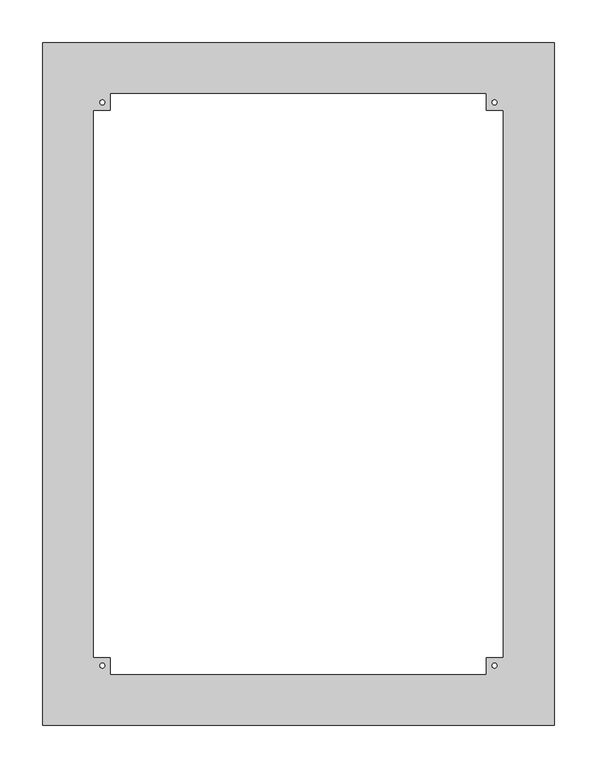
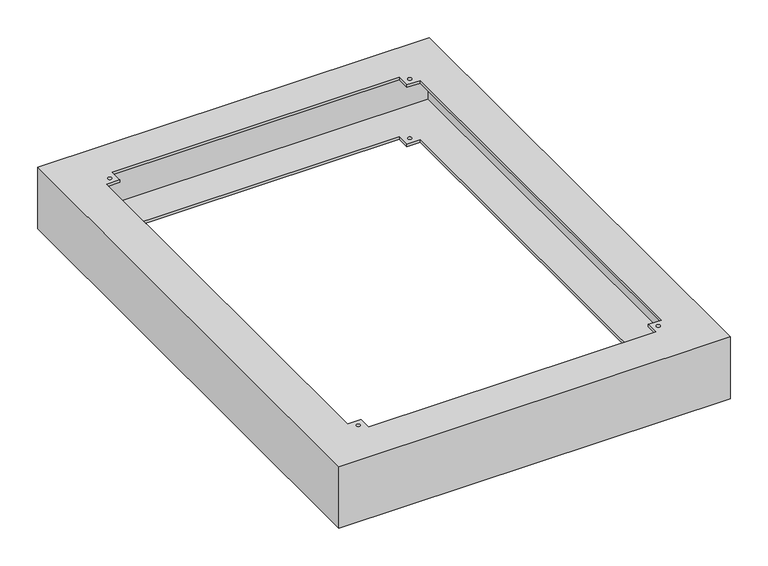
"""IFC4 building model written with IfcOpenShell, lengths in millimetres: furniture geometry, НВО_КНС_Сейсмоцоколь_DKC : Сейсмоцоколь 600x800x100мм."""

from ifc_helpers import new_model, si_unit, frame, origin, place, context, project, spatial, polyline, circle_curve, source, transform, mapped, element, save
from ifc_brep_helpers import plane_surface, revolved_surface, advanced_brep


def furniture_e79b8919(model_context):
    return source(origin(), model_context, "Body", "AdvancedBrep", [
        advanced_brep(
        [(300.0, 400.0, 100.0), (-300.0, 400.0, 100.0), (-300.0, -400.0, 100.0), (300.0, -400.0, 100.0), (220.0, 340.0, 100.0), (220.0, 320.0, 100.0), (240.0, 320.0, 100.0), (240.0, -320.0, 100.0), (220.0, -320.0, 100.0), (220.0, -340.0, 100.0), (-220.0, -340.0, 100.0), (-220.0, -320.0, 100.0), (-240.0, -320.0, 100.0), (-240.0, 320.0, 100.0), (-220.0, 320.0, 100.0), (-220.0, 340.0, 100.0), (-232.8696247, 330.0, 100.0), (-227.1303753, 330.0, 100.0), (227.1303753, 330.0, 100.0), (232.8696247, 330.0, 100.0), (-232.8696247, -330.0, 100.0), (-227.1303753, -330.0, 100.0), (227.1303753, -330.0, 100.0), (232.8696247, -330.0, 100.0), (300.0, 400.0, 0.0), (300.0, -400.0, 0.0), (-300.0, -400.0, 0.0), (-300.0, 400.0, 0.0), (220.0, 340.0, 0.0), (-220.0, 340.0, 0.0), (-220.0, 320.0, 0.0), (-240.0, 320.0, 0.0), (-240.0, -320.0, 0.0), (-220.0, -320.0, 0.0), (-220.0, -340.0, 0.0), (220.0, -340.0, 0.0), (220.0, -320.0, 0.0), (240.0, -320.0, 0.0), (240.0, 320.0, 0.0), (220.0, 320.0, 0.0), (-232.8696247, 330.0, 0.0), (-227.1303753, 330.0, 0.0), (227.1303753, 330.0, 0.0), (232.8696247, 330.0, 0.0), (-232.8696247, -330.0, 0.0), (-227.1303753, -330.0, 0.0), (227.1303753, -330.0, 0.0), (232.8696247, -330.0, 0.0), (220.0, 340.0, 96.0), (220.0, 320.0, 96.0), (220.0, 320.0, 4.0), (220.0, 340.0, 4.0), (240.0, 320.0, 96.0), (240.0, 320.0, 4.0), (240.0, -320.0, 96.0), (240.0, -320.0, 4.0), (220.0, -320.0, 96.0), (220.0, -320.0, 4.0), (220.0, -340.0, 96.0), (220.0, -340.0, 4.0), (-220.0, -340.0, 96.0), (-220.0, -340.0, 4.0), (-220.0, -320.0, 96.0), (-220.0, -320.0, 4.0), (-240.0, -320.0, 96.0), (-240.0, -320.0, 4.0), (-240.0, 320.0, 96.0), (-240.0, 320.0, 4.0), (-220.0, 320.0, 96.0), (-220.0, 320.0, 4.0), (-220.0, 340.0, 96.0), (-220.0, 340.0, 4.0), (-232.8696247, 330.0, 96.0), (-227.1303753, 330.0, 96.0), (-227.1303753, 330.0, 4.0), (-232.8696247, 330.0, 4.0), (227.1303753, 330.0, 96.0), (232.8696247, 330.0, 96.0), (232.8696247, 330.0, 4.0), (227.1303753, 330.0, 4.0), (-232.8696247, -330.0, 96.0), (-227.1303753, -330.0, 96.0), (-227.1303753, -330.0, 4.0), (-232.8696247, -330.0, 4.0), (227.1303753, -330.0, 96.0), (232.8696247, -330.0, 96.0), (232.8696247, -330.0, 4.0), (227.1303753, -330.0, 4.0), (296.0, 396.0, 96.0), (296.0, -396.0, 96.0), (-296.0, -396.0, 96.0), (-296.0, 396.0, 96.0), (296.0, 396.0, 4.0), (-296.0, 396.0, 4.0), (-296.0, -396.0, 4.0), (296.0, -396.0, 4.0)],
        [
            (0, 1),
            (1, 2),
            (2, 3),
            (3, 0),
            (4, 5),
            (5, 6),
            (6, 7),
            (7, 8),
            (8, 9),
            (9, 10),
            (10, 11),
            (11, 12),
            (12, 13),
            (13, 14),
            (14, 15),
            (15, 4),
            (16, 17, circle_curve(frame((-230.0, 330.0, 100.0), z_axis=(0.0, 0.0, -1.0), x_axis=(1.0, 0.0, 0.0)), 2.8696247)),
            (17, 16, circle_curve(frame((-230.0, 330.0, 100.0), z_axis=(0.0, 0.0, -1.0), x_axis=(1.0, 0.0, 0.0)), 2.8696247)),
            (18, 19, circle_curve(frame((230.0, 330.0, 100.0), z_axis=(0.0, 0.0, -1.0), x_axis=(1.0, 0.0, 0.0)), 2.8696247)),
            (19, 18, circle_curve(frame((230.0, 330.0, 100.0), z_axis=(0.0, 0.0, -1.0), x_axis=(1.0, 0.0, 0.0)), 2.8696247)),
            (20, 21, circle_curve(frame((-230.0, -330.0, 100.0), z_axis=(0.0, 0.0, -1.0), x_axis=(1.0, 0.0, 0.0)), 2.8696247)),
            (21, 20, circle_curve(frame((-230.0, -330.0, 100.0), z_axis=(0.0, 0.0, -1.0), x_axis=(1.0, 0.0, 0.0)), 2.8696247)),
            (22, 23, circle_curve(frame((230.0, -330.0, 100.0), z_axis=(0.0, 0.0, -1.0), x_axis=(1.0, 0.0, 0.0)), 2.8696247)),
            (23, 22, circle_curve(frame((230.0, -330.0, 100.0), z_axis=(0.0, 0.0, -1.0), x_axis=(1.0, 0.0, 0.0)), 2.8696247)),
            (24, 25),
            (25, 26),
            (26, 27),
            (27, 24),
            (28, 29),
            (29, 30),
            (30, 31),
            (31, 32),
            (32, 33),
            (33, 34),
            (34, 35),
            (35, 36),
            (36, 37),
            (37, 38),
            (38, 39),
            (39, 28),
            (40, 41, circle_curve(frame((-230.0, 330.0, 0.0), z_axis=(0.0, 0.0, 1.0), x_axis=(1.0, 0.0, 0.0)), 2.8696247)),
            (41, 40, circle_curve(frame((-230.0, 330.0, 0.0), z_axis=(0.0, 0.0, 1.0), x_axis=(1.0, 0.0, 0.0)), 2.8696247)),
            (42, 43, circle_curve(frame((230.0, 330.0, 0.0), z_axis=(0.0, 0.0, 1.0), x_axis=(1.0, 0.0, 0.0)), 2.8696247)),
            (43, 42, circle_curve(frame((230.0, 330.0, 0.0), z_axis=(0.0, 0.0, 1.0), x_axis=(1.0, 0.0, 0.0)), 2.8696247)),
            (44, 45, circle_curve(frame((-230.0, -330.0, 0.0), z_axis=(0.0, 0.0, 1.0), x_axis=(1.0, 0.0, 0.0)), 2.8696247)),
            (45, 44, circle_curve(frame((-230.0, -330.0, 0.0), z_axis=(0.0, 0.0, 1.0), x_axis=(1.0, 0.0, 0.0)), 2.8696247)),
            (46, 47, circle_curve(frame((230.0, -330.0, 0.0), z_axis=(0.0, 0.0, 1.0), x_axis=(1.0, 0.0, 0.0)), 2.8696247)),
            (47, 46, circle_curve(frame((230.0, -330.0, 0.0), z_axis=(0.0, 0.0, 1.0), x_axis=(1.0, 0.0, 0.0)), 2.8696247)),
            (0, 24),
            (27, 1),
            (26, 2),
            (25, 3),
            (4, 48),
            (48, 49),
            (49, 5),
            (39, 50),
            (50, 51),
            (51, 28),
            (49, 52),
            (52, 6),
            (38, 53),
            (53, 50),
            (52, 54),
            (54, 7),
            (37, 55),
            (55, 53),
            (54, 56),
            (56, 8),
            (36, 57),
            (57, 55),
            (56, 58),
            (58, 9),
            (35, 59),
            (59, 57),
            (58, 60),
            (60, 10),
            (34, 61),
            (61, 59),
            (60, 62),
            (62, 11),
            (33, 63),
            (63, 61),
            (62, 64),
            (64, 12),
            (32, 65),
            (65, 63),
            (64, 66),
            (66, 13),
            (31, 67),
            (67, 65),
            (66, 68),
            (68, 14),
            (30, 69),
            (69, 67),
            (68, 70),
            (70, 15),
            (29, 71),
            (71, 69),
            (70, 48),
            (51, 71),
            (16, 72),
            (72, 73, circle_curve(frame((-230.0, 330.0, 96.0), z_axis=(0.0, 0.0, -1.0), x_axis=(1.0, 0.0, 0.0)), 2.8696247)),
            (73, 17),
            (41, 74),
            (74, 75, circle_curve(frame((-230.0, 330.0, 4.0), z_axis=(0.0, 0.0, 1.0), x_axis=(1.0, 0.0, 0.0)), 2.8696247)),
            (75, 40),
            (73, 72, circle_curve(frame((-230.0, 330.0, 96.0), z_axis=(0.0, 0.0, -1.0), x_axis=(1.0, 0.0, 0.0)), 2.8696247)),
            (75, 74, circle_curve(frame((-230.0, 330.0, 4.0), z_axis=(0.0, 0.0, 1.0), x_axis=(1.0, 0.0, 0.0)), 2.8696247)),
            (18, 76),
            (76, 77, circle_curve(frame((230.0, 330.0, 96.0), z_axis=(0.0, 0.0, -1.0), x_axis=(1.0, 0.0, 0.0)), 2.8696247)),
            (77, 19),
            (43, 78),
            (78, 79, circle_curve(frame((230.0, 330.0, 4.0), z_axis=(0.0, 0.0, 1.0), x_axis=(1.0, 0.0, 0.0)), 2.8696247)),
            (79, 42),
            (77, 76, circle_curve(frame((230.0, 330.0, 96.0), z_axis=(0.0, 0.0, -1.0), x_axis=(1.0, 0.0, 0.0)), 2.8696247)),
            (79, 78, circle_curve(frame((230.0, 330.0, 4.0), z_axis=(0.0, 0.0, 1.0), x_axis=(1.0, 0.0, 0.0)), 2.8696247)),
            (20, 80),
            (80, 81, circle_curve(frame((-230.0, -330.0, 96.0), z_axis=(0.0, 0.0, -1.0), x_axis=(1.0, 0.0, 0.0)), 2.8696247)),
            (81, 21),
            (45, 82),
            (82, 83, circle_curve(frame((-230.0, -330.0, 4.0), z_axis=(0.0, 0.0, 1.0), x_axis=(1.0, 0.0, 0.0)), 2.8696247)),
            (83, 44),
            (81, 80, circle_curve(frame((-230.0, -330.0, 96.0), z_axis=(0.0, 0.0, -1.0), x_axis=(1.0, 0.0, 0.0)), 2.8696247)),
            (83, 82, circle_curve(frame((-230.0, -330.0, 4.0), z_axis=(0.0, 0.0, 1.0), x_axis=(1.0, 0.0, 0.0)), 2.8696247)),
            (22, 84),
            (84, 85, circle_curve(frame((230.0, -330.0, 96.0), z_axis=(0.0, 0.0, -1.0), x_axis=(1.0, 0.0, 0.0)), 2.8696247)),
            (85, 23),
            (47, 86),
            (86, 87, circle_curve(frame((230.0, -330.0, 4.0), z_axis=(0.0, 0.0, 1.0), x_axis=(1.0, 0.0, 0.0)), 2.8696247)),
            (87, 46),
            (85, 84, circle_curve(frame((230.0, -330.0, 96.0), z_axis=(0.0, 0.0, -1.0), x_axis=(1.0, 0.0, 0.0)), 2.8696247)),
            (87, 86, circle_curve(frame((230.0, -330.0, 4.0), z_axis=(0.0, 0.0, 1.0), x_axis=(1.0, 0.0, 0.0)), 2.8696247)),
            (88, 89),
            (89, 90),
            (90, 91),
            (91, 88),
            (92, 93),
            (93, 94),
            (94, 95),
            (95, 92),
            (91, 93),
            (92, 88),
            (90, 94),
            (89, 95),
        ],
        [
            plane_surface(frame((-300.0, 400.0, 100.0), z_axis=(0.0, 0.0, 1.0), x_axis=(-1.0, 0.0, 0.0))),
            plane_surface(frame((-300.0, 400.0, 0.0), z_axis=(0.0, 0.0, -1.0), x_axis=(1.0, 0.0, 0.0))),
            plane_surface(frame((300.0, 400.0, 100.0), z_axis=(0.0, 1.0, 0.0), x_axis=(0.0, 0.0, -1.0))),
            plane_surface(frame((-300.0, 400.0, 100.0), z_axis=(-1.0, 0.0, 0.0), x_axis=(0.0, 0.0, -1.0))),
            plane_surface(frame((-300.0, -400.0, 100.0), z_axis=(0.0, -1.0, 0.0), x_axis=(0.0, 0.0, -1.0))),
            plane_surface(frame((300.0, -400.0, 100.0), z_axis=(1.0, 0.0, 0.0), x_axis=(0.0, 0.0, -1.0))),
            plane_surface(frame((220.0, 340.0, 100.0), z_axis=(-1.0, 0.0, 0.0), x_axis=(0.0, 0.0, -1.0))),
            plane_surface(frame((220.0, 320.0, 100.0), z_axis=(0.0, -1.0, 0.0), x_axis=(0.0, 0.0, -1.0))),
            plane_surface(frame((240.0, 320.0, 100.0), z_axis=(-1.0, 0.0, 0.0), x_axis=(0.0, 0.0, -1.0))),
            plane_surface(frame((240.0, -320.0, 100.0), z_axis=(0.0, 1.0, 0.0), x_axis=(0.0, 0.0, -1.0))),
            plane_surface(frame((220.0, -320.0, 100.0), z_axis=(-1.0, 0.0, 0.0), x_axis=(0.0, 0.0, -1.0))),
            plane_surface(frame((220.0, -340.0, 100.0), z_axis=(0.0, 1.0, 0.0), x_axis=(0.0, 0.0, -1.0))),
            plane_surface(frame((-220.0, -340.0, 100.0), z_axis=(1.0, 0.0, 0.0), x_axis=(0.0, 0.0, -1.0))),
            plane_surface(frame((-220.0, -320.0, 100.0), z_axis=(0.0, 1.0, 0.0), x_axis=(0.0, 0.0, -1.0))),
            plane_surface(frame((-240.0, -320.0, 100.0), z_axis=(1.0, 0.0, 0.0), x_axis=(0.0, 0.0, -1.0))),
            plane_surface(frame((-240.0, 320.0, 100.0), z_axis=(0.0, -1.0, 0.0), x_axis=(0.0, 0.0, -1.0))),
            plane_surface(frame((-220.0, 320.0, 100.0), z_axis=(1.0, 0.0, 0.0), x_axis=(0.0, 0.0, -1.0))),
            plane_surface(frame((-220.0, 340.0, 100.0), z_axis=(0.0, -1.0, 0.0), x_axis=(0.0, 0.0, -1.0))),
            revolved_surface(polyline([(-227.1303753, 330.0, 96.0), (-227.1303753, 330.0, 100.0)]), (-230.0, 330.0, 0.0), (0.0, 0.0, -1.0)),
            revolved_surface(polyline([(-227.1303753, 330.0, 0.0), (-227.1303753, 330.0, 4.0)]), (-230.0, 330.0, 0.0), (0.0, 0.0, -1.0)),
            revolved_surface(polyline([(232.8696247, 330.0, 96.0), (232.8696247, 330.0, 100.0)]), (230.0, 330.0, 0.0), (0.0, 0.0, -1.0)),
            revolved_surface(polyline([(232.8696247, 330.0, 0.0), (232.8696247, 330.0, 4.0)]), (230.0, 330.0, 0.0), (0.0, 0.0, -1.0)),
            revolved_surface(polyline([(-227.1303753, -330.0, 96.0), (-227.1303753, -330.0, 100.0)]), (-230.0, -330.0, 0.0), (0.0, 0.0, -1.0)),
            revolved_surface(polyline([(-227.1303753, -330.0, 0.0), (-227.1303753, -330.0, 4.0)]), (-230.0, -330.0, 0.0), (0.0, 0.0, -1.0)),
            revolved_surface(polyline([(232.8696247, -330.0, 96.0), (232.8696247, -330.0, 100.0)]), (230.0, -330.0, 0.0), (0.0, 0.0, -1.0)),
            revolved_surface(polyline([(232.8696247, -330.0, 0.0), (232.8696247, -330.0, 4.0)]), (230.0, -330.0, 0.0), (0.0, 0.0, -1.0)),
            plane_surface(frame((-296.0, 396.0, 96.0), z_axis=(0.0, 0.0, -1.0), x_axis=(-1.0, 0.0, 0.0))),
            plane_surface(frame((-296.0, 396.0, 4.0), z_axis=(0.0, 0.0, 1.0), x_axis=(1.0, 0.0, 0.0))),
            plane_surface(frame((296.0, 396.0, 96.0), z_axis=(0.0, -1.0, 0.0), x_axis=(0.0, 0.0, -1.0))),
            plane_surface(frame((-296.0, 396.0, 96.0), z_axis=(1.0, 0.0, 0.0), x_axis=(0.0, 0.0, -1.0))),
            plane_surface(frame((-296.0, -396.0, 96.0), z_axis=(0.0, 1.0, 0.0), x_axis=(0.0, 0.0, -1.0))),
            plane_surface(frame((296.0, -396.0, 96.0), z_axis=(-1.0, 0.0, 0.0), x_axis=(0.0, 0.0, -1.0))),
        ],
        [
            (0, [[1, 2, 3, 4], [5, 6, 7, 8, 9, 10, 11, 12, 13, 14, 15, 16], [17, 18], [19, 20], [21, 22], [23, 24]]),
            (1, [[25, 26, 27, 28], [29, 30, 31, 32, 33, 34, 35, 36, 37, 38, 39, 40], [41, 42], [43, 44], [45, 46], [47, 48]]),
            (2, [[-1, 49, -28, 50]]),
            (3, [[-2, -50, -27, 51]]),
            (4, [[-3, -51, -26, 52]]),
            (5, [[-4, -52, -25, -49]]),
            (6, [[-5, 53, 54, 55]]),
            (6, [[-40, 56, 57, 58]]),
            (7, [[-6, -55, 59, 60]]),
            (7, [[-39, 61, 62, -56]]),
            (8, [[-7, -60, 63, 64]]),
            (8, [[-38, 65, 66, -61]]),
            (9, [[-8, -64, 67, 68]]),
            (9, [[-37, 69, 70, -65]]),
            (10, [[-9, -68, 71, 72]]),
            (10, [[-36, 73, 74, -69]]),
            (11, [[-10, -72, 75, 76]]),
            (11, [[-35, 77, 78, -73]]),
            (12, [[-11, -76, 79, 80]]),
            (12, [[-34, 81, 82, -77]]),
            (13, [[-12, -80, 83, 84]]),
            (13, [[-33, 85, 86, -81]]),
            (14, [[-13, -84, 87, 88]]),
            (14, [[-32, 89, 90, -85]]),
            (15, [[-14, -88, 91, 92]]),
            (15, [[-31, 93, 94, -89]]),
            (16, [[-15, -92, 95, 96]]),
            (16, [[-30, 97, 98, -93]]),
            (17, [[-16, -96, 99, -53]]),
            (17, [[-29, -58, 100, -97]]),
            (18, [[-17, 101, 102, 103]]),
            (19, [[-42, 104, 105, 106]]),
            (18, [[-18, -103, 107, -101]]),
            (19, [[-41, -106, 108, -104]]),
            (20, [[-19, 109, 110, 111]]),
            (21, [[-44, 112, 113, 114]]),
            (20, [[-20, -111, 115, -109]]),
            (21, [[-43, -114, 116, -112]]),
            (22, [[-21, 117, 118, 119]]),
            (23, [[-46, 120, 121, 122]]),
            (22, [[-22, -119, 123, -117]]),
            (23, [[-45, -122, 124, -120]]),
            (24, [[-23, 125, 126, 127]]),
            (25, [[-48, 128, 129, 130]]),
            (24, [[-24, -127, 131, -125]]),
            (25, [[-47, -130, 132, -128]]),
            (26, [[133, 134, 135, 136], [-54, -99, -95, -91, -87, -83, -79, -75, -71, -67, -63, -59], [-102, -107], [-110, -115], [-118, -123], [-126, -131]]),
            (27, [[137, 138, 139, 140], [-57, -62, -66, -70, -74, -78, -82, -86, -90, -94, -98, -100], [-105, -108], [-113, -116], [-121, -124], [-129, -132]]),
            (28, [[-136, 141, -137, 142]]),
            (29, [[-135, 143, -138, -141]]),
            (30, [[-134, 144, -139, -143]]),
            (31, [[-133, -142, -140, -144]]),
        ],
    ),
    ])


if __name__ == "__main__":
    model = new_model("IFC4")
    model_context = context("Model", 3, world=origin())
    ifc_project = project(units=[si_unit("LENGTHUNIT", "METRE", prefix="MILLI")], contexts=[model_context])
    site = spatial("IfcSite", under=ifc_project)
    building = spatial("IfcBuilding", under=site)
    placement = place(None, origin())
    furniture_shape = furniture_e79b8919(model_context)
    element("IfcFurniture", 1, ObjectType="НВО_КНС_Сейсмоцоколь_DKC : Сейсмоцоколь 600x800x100мм", at=placement, inside=building, context=model_context, shape_type="MappedRepresentation", body=[
        mapped(furniture_shape, transform((0.0, 0.0, 0.0), x_axis=(1.0, 0.0, 0.0), y_axis=(0.0, 1.0, 0.0), z_axis=(0.0, 0.0, 1.0))),
    ])
    save(model, "model.ifc")
